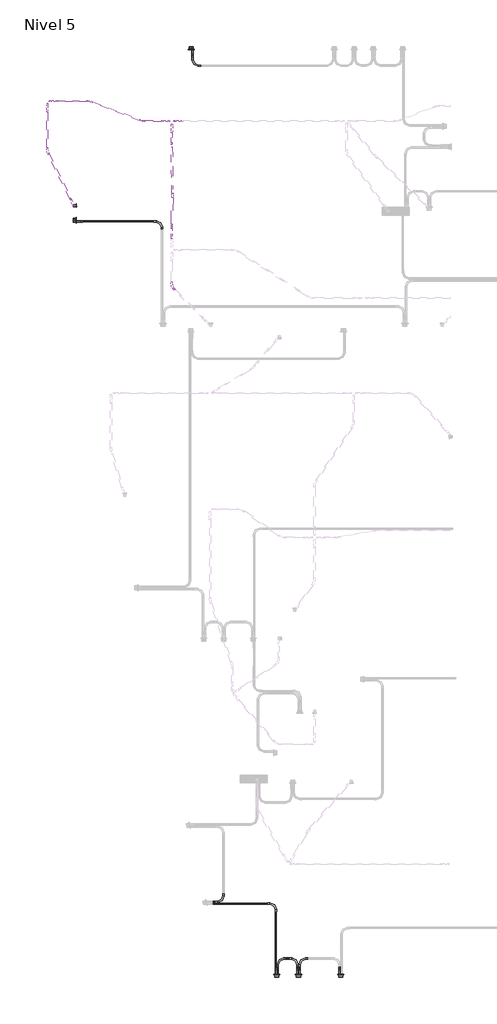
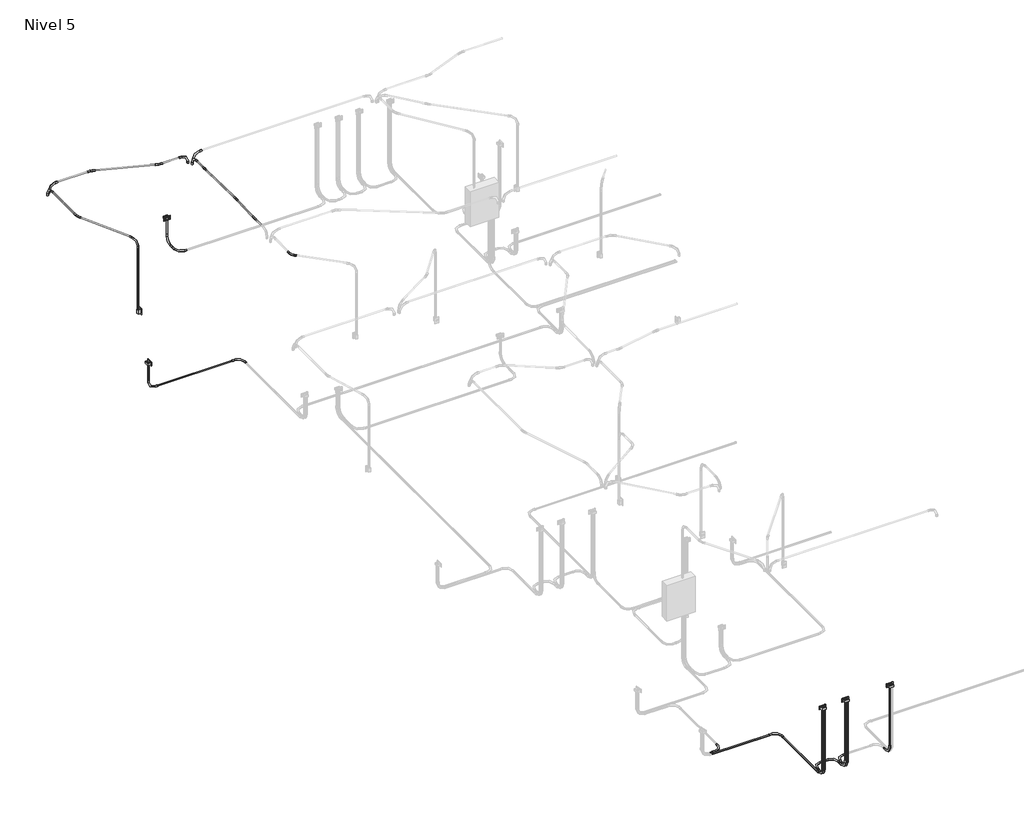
# One storey, part 2 of 9: 27 cable carrier fittings, 27 cable carrier segments, 5 proxies, 1 switching device.
"""IFC4 building model written with IfcOpenShell, lengths in millimetres."""

from ifc_helpers import new_model, si_unit, point, frame, frame_2d, origin, place, context, project, spatial, circle_curve, trimmed, segment, composite_curve, outline, extrude, transform, mapped, element, save
from components import gfci_180f1b41, m_codo_de_tubo_extremo_liso_pvc_9da73e12, m_codo_de_tubo_extremo_liso_pvc_102f0f41, m_codo_de_tubo_extremo_liso_pvc_31fdfd7b, m_codo_de_tubo_extremo_liso_pvc_199f3936, m_codo_de_tubo_extremo_liso_pvc_4eea1a97, m_codo_de_tubo_extremo_liso_pvc_b4c5bf2b, m_codo_de_tubo_extremo_liso_pvc_bfb08ca4, m_codo_de_tubo_extremo_liso_pvc_4ea2b15a, switching_device_22fed34b

model = new_model("IFC4")

# Units and contexts
model_context = context("Model", 3, world=origin())
ifc_project = project(units=[si_unit("LENGTHUNIT", "METRE", prefix="MILLI")], contexts=[model_context])

# Site, building, storey
site = spatial("IfcSite", under=ifc_project)
building = spatial("IfcBuilding", under=site)
storey = spatial("IfcBuildingStorey", under=building, Name="Nivel 5", Elevation=10750.0)

# Proxies
placement = place(None, origin())
gfci_shape = gfci_180f1b41(model_context)
element("IfcBuildingElementProxy", 1, Name="Tomacorriente doble 220V : GFCI", ObjectType="Tomacorriente doble 220V : GFCI", at=placement, inside=storey, context=model_context, shape_type="MappedRepresentation", body=[
    mapped(gfci_shape, transform((-348.6846132, 17515.0, 11150.0), x_axis=(0.0, 0.0, 1.0), y_axis=(-1.0, 0.0, 0.0), z_axis=(0.0, -1.0, 0.0))),
])
element("IfcBuildingElementProxy", 2, Name="Tomacorriente doble 220V : GFCI", ObjectType="Tomacorriente doble 220V : GFCI", at=placement, inside=storey, context=model_context, shape_type="MappedRepresentation", body=[
    mapped(gfci_shape, transform((-2515.0, 14302.9568005, 11150.0), x_axis=(0.0, 0.0, 1.0), y_axis=(0.0, -1.0, 0.0), z_axis=(1.0, 0.0, 0.0))),
])
element("IfcBuildingElementProxy", 3, Name="Tomacorriente doble 220V : GFCI", ObjectType="Tomacorriente doble 220V : GFCI", at=placement, inside=storey, context=model_context, shape_type="MappedRepresentation", body=[
    mapped(gfci_shape, transform((1255.5288542, 135.0, 11950.0), x_axis=(0.0, 0.0, 1.0), y_axis=(1.0, 0.0, 0.0), z_axis=(0.0, 1.0, 0.0))),
])
element("IfcBuildingElementProxy", 4, Name="Tomacorriente doble 220V : GFCI", ObjectType="Tomacorriente doble 220V : GFCI", at=placement, inside=storey, context=model_context, shape_type="MappedRepresentation", body=[
    mapped(gfci_shape, transform((1663.0318519, 135.0, 11950.0), x_axis=(0.0, 0.0, 1.0), y_axis=(1.0, 0.0, 0.0), z_axis=(0.0, 1.0, 0.0))),
])
element("IfcBuildingElementProxy", 5, Name="Tomacorriente doble 220V : GFCI", ObjectType="Tomacorriente doble 220V : GFCI", at=placement, inside=storey, context=model_context, shape_type="MappedRepresentation", body=[
    mapped(gfci_shape, transform((2452.7128025, 135.0, 11950.0), x_axis=(0.0, 0.0, 1.0), y_axis=(1.0, 0.0, 0.0), z_axis=(0.0, 1.0, 0.0))),
])

# Cable carrier fittings
m_codo_de_tubo_extremo_liso_pvc_shape = m_codo_de_tubo_extremo_liso_pvc_9da73e12(model_context)
element("IfcCableCarrierFitting", 6, ObjectType="M_Codo de tubo - Extremo liso - PVC : CODO POTENCIA", at=placement, inside=storey, context=model_context, shape_type="MappedRepresentation", body=[
    mapped(m_codo_de_tubo_extremo_liso_pvc_shape, transform((-330.6527934, 17544.6371118, 10680.0), x_axis=(0.0, 0.0, -1.0), y_axis=(0.0, -1.0, 0.0), z_axis=(-1.0, 0.0, 0.0))),
])
element("IfcCableCarrierFitting", 7, ObjectType="M_Codo de tubo - Extremo liso - PVC : CODO POTENCIA", at=placement, inside=storey, context=model_context, shape_type="MappedRepresentation", body=[
    mapped(m_codo_de_tubo_extremo_liso_pvc_shape, transform((-330.6527934, 17208.8420057, 10680.0), x_axis=(0.0, -1.0, 0.0), y_axis=(1.0, 0.0, 0.0), z_axis=(0.0, 0.0, 1.0))),
])
element("IfcCableCarrierFitting", 8, ObjectType="M_Codo de tubo - Extremo liso - PVC : CODO POTENCIA", at=placement, inside=storey, context=model_context, shape_type="MappedRepresentation", body=[
    mapped(m_codo_de_tubo_extremo_liso_pvc_shape, transform((-900.2944255, 14284.9249807, 10680.0), x_axis=(0.0, 1.0, 0.0), y_axis=(-1.0, 0.0, 0.0), z_axis=(0.0, 0.0, 1.0))),
])
element("IfcCableCarrierFitting", 9, ObjectType="M_Codo de tubo - Extremo liso - PVC : CODO POTENCIA", at=placement, inside=storey, context=model_context, shape_type="MappedRepresentation", body=[
    mapped(m_codo_de_tubo_extremo_liso_pvc_shape, transform((-2544.6371118, 14284.9249807, 10680.0), x_axis=(0.0, 0.0, -1.0), y_axis=(1.0, 0.0, 0.0), z_axis=(0.0, -1.0, 0.0))),
])
element("IfcCableCarrierFitting", 10, ObjectType="M_Codo de tubo - Extremo liso - PVC : CODO POTENCIA", at=placement, inside=storey, context=model_context, shape_type="MappedRepresentation", body=[
    mapped(m_codo_de_tubo_extremo_liso_pvc_shape, transform((1237.4970343, 105.3628882, 10680.0), x_axis=(0.0, 0.0, -1.0), y_axis=(0.0, 1.0, 0.0), z_axis=(1.0, 0.0, 0.0))),
])
element("IfcCableCarrierFitting", 11, ObjectType="M_Codo de tubo - Extremo liso - PVC : CODO POTENCIA", at=placement, inside=storey, context=model_context, shape_type="MappedRepresentation", body=[
    mapped(m_codo_de_tubo_extremo_liso_pvc_shape, transform((1273.560674, 105.3628882, 10680.0), x_axis=(0.0, 0.0, -1.0), y_axis=(0.0, 1.0, 0.0), z_axis=(1.0, 0.0, 0.0))),
])
element("IfcCableCarrierFitting", 12, ObjectType="M_Codo de tubo - Extremo liso - PVC : CODO POTENCIA", at=placement, inside=storey, context=model_context, shape_type="MappedRepresentation", body=[
    mapped(m_codo_de_tubo_extremo_liso_pvc_shape, transform((1645.0000321, 105.3628882, 10680.0), x_axis=(0.0, 0.0, -1.0), y_axis=(0.0, 1.0, 0.0), z_axis=(1.0, 0.0, 0.0))),
])
element("IfcCableCarrierFitting", 13, ObjectType="M_Codo de tubo - Extremo liso - PVC : CODO POTENCIA", at=placement, inside=storey, context=model_context, shape_type="MappedRepresentation", body=[
    mapped(m_codo_de_tubo_extremo_liso_pvc_shape, transform((1681.0636718, 105.3628882, 10680.0), x_axis=(0.0, 0.0, -1.0), y_axis=(0.0, 1.0, 0.0), z_axis=(1.0, 0.0, 0.0))),
])
element("IfcCableCarrierFitting", 14, ObjectType="M_Codo de tubo - Extremo liso - PVC : CODO POTENCIA", at=placement, inside=storey, context=model_context, shape_type="MappedRepresentation", body=[
    mapped(m_codo_de_tubo_extremo_liso_pvc_shape, transform((2434.6809826, 105.3628882, 10680.0), x_axis=(0.0, 0.0, -1.0), y_axis=(0.0, 1.0, 0.0), z_axis=(1.0, 0.0, 0.0))),
])
element("IfcCableCarrierFitting", 15, ObjectType="M_Codo de tubo - Extremo liso - PVC : CODO POTENCIA", at=placement, inside=storey, context=model_context, shape_type="MappedRepresentation", body=[
    mapped(m_codo_de_tubo_extremo_liso_pvc_shape, transform((253.0068358, 1502.4579832, 10680.0), x_axis=(1.0, 0.0, 0.0), y_axis=(0.0, 1.0, 0.0), z_axis=(0.0, 0.0, 1.0))),
])
element("IfcCableCarrierFitting", 16, ObjectType="M_Codo de tubo - Extremo liso - PVC : CODO POTENCIA", at=placement, inside=storey, context=model_context, shape_type="MappedRepresentation", body=[
    mapped(m_codo_de_tubo_extremo_liso_pvc_shape, transform((1237.4970343, 1467.2131755, 10680.0), x_axis=(0.0, 1.0, 0.0), y_axis=(-1.0, 0.0, 0.0), z_axis=(0.0, 0.0, 1.0))),
])
element("IfcCableCarrierFitting", 17, ObjectType="M_Codo de tubo - Extremo liso - PVC : CODO POTENCIA", at=placement, inside=storey, context=model_context, shape_type="MappedRepresentation", body=[
    mapped(m_codo_de_tubo_extremo_liso_pvc_shape, transform((1645.0000321, 438.3082217, 10680.0), x_axis=(0.0, 1.0, 0.0), y_axis=(-1.0, 0.0, 0.0), z_axis=(0.0, 0.0, 1.0))),
])
element("IfcCableCarrierFitting", 18, ObjectType="M_Codo de tubo - Extremo liso - PVC : CODO POTENCIA", at=placement, inside=storey, context=model_context, shape_type="MappedRepresentation", body=[
    mapped(m_codo_de_tubo_extremo_liso_pvc_shape, transform((1273.560674, 438.3082217, 10680.0), x_axis=(-1.0, 0.0, 0.0), y_axis=(0.0, -1.0, 0.0), z_axis=(0.0, 0.0, 1.0))),
])
element("IfcCableCarrierFitting", 19, ObjectType="M_Codo de tubo - Extremo liso - PVC : CODO POTENCIA", at=placement, inside=storey, context=model_context, shape_type="MappedRepresentation", body=[
    mapped(m_codo_de_tubo_extremo_liso_pvc_shape, transform((1681.0636718, 438.3082217, 10680.0), x_axis=(-1.0, 0.0, 0.0), y_axis=(0.0, -1.0, 0.0), z_axis=(0.0, 0.0, 1.0))),
])
element("IfcCableCarrierFitting", 20, ObjectType="M_Codo de tubo - Extremo liso - PVC : CODO ILUMINACION", at=placement, inside=storey, context=model_context, shape_type="MappedRepresentation", body=[
    mapped(m_codo_de_tubo_extremo_liso_pvc_shape, transform((-665.3156999, 16168.6370953, 13300.0), x_axis=(-1.0, 0.0, 0.0), y_axis=(0.0, 0.0, -1.0), z_axis=(0.0, -1.0, 0.0))),
])
element("IfcCableCarrierFitting", 21, ObjectType="M_Codo de tubo - Extremo liso - PVC : CODO ILUMINACION", at=placement, inside=storey, context=model_context, shape_type="MappedRepresentation", body=[
    mapped(m_codo_de_tubo_extremo_liso_pvc_shape, transform((-3010.5406073, 16541.9011196, 13300.0), x_axis=(-1.0, 0.0, 0.0), y_axis=(0.0, 0.0, -1.0), z_axis=(0.0, -1.0, 0.0))),
])
element("IfcCableCarrierFitting", 22, ObjectType="M_Codo de tubo - Extremo liso - PVC : CODO ILUMINACION", at=placement, inside=storey, context=model_context, shape_type="MappedRepresentation", body=[
    mapped(m_codo_de_tubo_extremo_liso_pvc_shape, transform((-2558.1388757, 14580.6379866, 13300.0), x_axis=(0.0, 0.0, 1.0), y_axis=(-0.4383711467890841, 0.8987940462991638, 0.0), z_axis=(-0.8987940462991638, -0.4383711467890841, 0.0))),
])
element("IfcCableCarrierFitting", 23, ObjectType="M_Codo de tubo - Extremo liso - PVC : CODO ILUMINACION", at=placement, inside=storey, context=model_context, shape_type="MappedRepresentation", body=[
    mapped(m_codo_de_tubo_extremo_liso_pvc_shape, transform((-715.4231993, 16103.9110611, 13300.0), x_axis=(0.00939019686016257, 0.9999559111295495, 0.0), y_axis=(0.0, 0.0, -1.0000000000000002), z_axis=(-0.9999559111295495, 0.00939019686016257, 0.0))),
])
m_codo_de_tubo_extremo_liso_pvc_2_shape = m_codo_de_tubo_extremo_liso_pvc_102f0f41(model_context)
element("IfcCableCarrierFitting", 24, ObjectType="M_Codo de tubo - Extremo liso - PVC : CODO ILUMINACION", at=placement, inside=storey, context=model_context, shape_type="MappedRepresentation", body=[
    mapped(m_codo_de_tubo_extremo_liso_pvc_2_shape, transform((-758.4681188, 16168.6370953, 13300.0), x_axis=(1.0, 0.0, 0.0), y_axis=(0.0, 0.0, 1.0), z_axis=(0.0, -1.0, 0.0))),
])
element("IfcCableCarrierFitting", 25, ObjectType="M_Codo de tubo - Extremo liso - PVC : CODO ILUMINACION", at=placement, inside=storey, context=model_context, shape_type="MappedRepresentation", body=[
    mapped(m_codo_de_tubo_extremo_liso_pvc_2_shape, transform((-3057.1168167, 16495.3249101, 13300.0), x_axis=(0.0, 1.0, 0.0), y_axis=(0.0, 0.0, 1.0), z_axis=(1.0, 0.0, 0.0))),
])
m_codo_de_tubo_extremo_liso_pvc_3_shape = m_codo_de_tubo_extremo_liso_pvc_31fdfd7b(model_context)
element("IfcCableCarrierFitting", 26, ObjectType="M_Codo de tubo - Extremo liso - PVC : CODO ILUMINACION", at=placement, inside=storey, context=model_context, shape_type="MappedRepresentation", body=[
    mapped(m_codo_de_tubo_extremo_liso_pvc_3_shape, transform((-2258.1406073, 16541.9011196, 13300.0), x_axis=(-0.9353798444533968, 0.3536446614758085, 0.0), y_axis=(-0.3536446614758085, -0.9353798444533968, 0.0), z_axis=(0.0, 0.0, 1.0))),
])
element("IfcCableCarrierFitting", 27, ObjectType="M_Codo de tubo - Extremo liso - PVC : CODO ILUMINACION", at=placement, inside=storey, context=model_context, shape_type="MappedRepresentation", body=[
    mapped(m_codo_de_tubo_extremo_liso_pvc_3_shape, transform((-1270.8681188, 16168.6370953, 13300.0), x_axis=(0.9353798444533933, -0.3536446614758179, 0.0), y_axis=(0.3536446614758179, 0.9353798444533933, 0.0), z_axis=(0.0, 0.0, 1.0))),
])
m_codo_de_tubo_extremo_liso_pvc_4_shape = m_codo_de_tubo_extremo_liso_pvc_199f3936(model_context)
element("IfcCableCarrierFitting", 28, ObjectType="M_Codo de tubo - Extremo liso - PVC : CODO ILUMINACION", at=placement, inside=storey, context=model_context, shape_type="MappedRepresentation", body=[
    mapped(m_codo_de_tubo_extremo_liso_pvc_4_shape, transform((-3057.1168167, 15603.694376, 13300.0), x_axis=(0.0, -1.0, 0.0), y_axis=(1.0, 0.0, 0.0), z_axis=(0.0, 0.0, 1.0))),
])
m_codo_de_tubo_extremo_liso_pvc_5_shape = m_codo_de_tubo_extremo_liso_pvc_4eea1a97(model_context)
element("IfcCableCarrierFitting", 29, ObjectType="M_Codo de tubo - Extremo liso - PVC : CODO ILUMINACION", at=placement, inside=storey, context=model_context, shape_type="MappedRepresentation", body=[
    mapped(m_codo_de_tubo_extremo_liso_pvc_5_shape, transform((-721.396181, 13060.2656357, 13300.0), x_axis=(-0.009390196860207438, -0.9999559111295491, 0.0), y_axis=(0.9999559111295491, -0.009390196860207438, 0.0), z_axis=(0.0, 0.0, 1.0))),
])
m_codo_de_tubo_extremo_liso_pvc_6_shape = m_codo_de_tubo_extremo_liso_pvc_b4c5bf2b(model_context)
element("IfcCableCarrierFitting", 30, ObjectType="M_Codo de tubo - Extremo liso - PVC : CODO ILUMINACION", at=placement, inside=storey, context=model_context, shape_type="MappedRepresentation", body=[
    mapped(m_codo_de_tubo_extremo_liso_pvc_6_shape, transform((-719.0008643, 15722.9278589, 13300.0), x_axis=(-0.009390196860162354, -0.9999559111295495, 0.0), y_axis=(0.9999559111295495, -0.009390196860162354, 0.0), z_axis=(0.0, 0.0, 1.0))),
])
m_codo_de_tubo_extremo_liso_pvc_7_shape = m_codo_de_tubo_extremo_liso_pvc_bfb08ca4(model_context)
element("IfcCableCarrierFitting", 31, ObjectType="M_Codo de tubo - Extremo liso - PVC : CODO ILUMINACION", at=placement, inside=storey, context=model_context, shape_type="MappedRepresentation", body=[
    mapped(m_codo_de_tubo_extremo_liso_pvc_7_shape, transform((-719.0008643, 14190.628692, 13300.0), x_axis=(-0.02343577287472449, -0.9997253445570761, 0.0), y_axis=(0.9997253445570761, -0.02343577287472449, 0.0), z_axis=(0.0, 0.0, 1.0))),
])
m_codo_de_tubo_extremo_liso_pvc_8_shape = m_codo_de_tubo_extremo_liso_pvc_4ea2b15a(model_context)
element("IfcCableCarrierFitting", 32, ObjectType="M_Codo de tubo - Extremo liso - PVC : CODO ILUMINACION", at=placement, inside=storey, context=model_context, shape_type="MappedRepresentation", body=[
    mapped(m_codo_de_tubo_extremo_liso_pvc_8_shape, transform((-705.288344, 14775.5786387, 13300.0), x_axis=(0.023435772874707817, 0.9997253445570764, 0.0), y_axis=(-0.9997253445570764, 0.023435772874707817, 0.0), z_axis=(0.0, 0.0, 1.0))),
])

# Cable carrier segments
element("IfcCableCarrierSegment", 33, ObjectType="PVC-SEL, POTENCIA", at=placement, inside=storey, context=model_context, shape_type="SweptSolid", body=[
    extrude(outline(composite_curve([segment(trimmed(circle_curve(frame_2d((10680.0, -330.6527934)), 11.71), [point((10680.0, -342.3627934))], [point((10668.29, -330.6527934))], False, "CARTESIAN"), True, "CONTINUOUS"), segment(trimmed(circle_curve(frame_2d((10680.0, -330.6527934)), 11.71), [point((10668.29, -330.6527934))], [point((10680.0, -318.9427934))], False, "CARTESIAN"), True, "CONTINUOUS"), segment(trimmed(circle_curve(frame_2d((10680.0, -330.6527934)), 11.71), [point((10680.0, -318.9427934))], [point((10691.71, -330.6527934))], False, "CARTESIAN"), True, "CONTINUOUS"), segment(trimmed(circle_curve(frame_2d((10680.0, -330.6527934)), 11.71), [point((10691.71, -330.6527934))], [point((10680.0, -342.3627934))], False, "CARTESIAN"), True, "CONTINUOUS")], self_intersect=False)), frame((0.0, 17361.2420057, 0.0), z_axis=(0.0, 1.0, 0.0), x_axis=(0.0, 0.0, 1.0)), (0.0, 0.0, 1.0), 30.9951061),
])
element("IfcCableCarrierSegment", 34, ObjectType="PVC-SEL, POTENCIA", at=placement, inside=storey, context=model_context, shape_type="SweptSolid", body=[
    extrude(outline(composite_curve([segment(trimmed(circle_curve(frame_2d((-330.6527934, 17544.6371118)), 11.71), [point((-318.9427934, 17544.6371118))], [point((-330.6527934, 17532.9271118))], False, "CARTESIAN"), True, "CONTINUOUS"), segment(trimmed(circle_curve(frame_2d((-330.6527934, 17544.6371118)), 11.71), [point((-330.6527934, 17532.9271118))], [point((-342.3627934, 17544.6371118))], False, "CARTESIAN"), True, "CONTINUOUS"), segment(trimmed(circle_curve(frame_2d((-330.6527934, 17544.6371118)), 11.71), [point((-342.3627934, 17544.6371118))], [point((-330.6527934, 17556.3471118))], False, "CARTESIAN"), True, "CONTINUOUS"), segment(trimmed(circle_curve(frame_2d((-330.6527934, 17544.6371118)), 11.71), [point((-330.6527934, 17556.3471118))], [point((-318.9427934, 17544.6371118))], False, "CARTESIAN"), True, "CONTINUOUS")], self_intersect=False)), frame((0.0, 0.0, 10832.4), z_axis=(0.0, 0.0, 1.0), x_axis=(1.0, 0.0, 0.0)), (0.0, 0.0, 1.0), 297.3020537),
])
element("IfcCableCarrierSegment", 35, ObjectType="PVC-SEL, POTENCIA", at=placement, inside=storey, context=model_context, shape_type="SweptSolid", body=[
    extrude(outline(composite_curve([segment(trimmed(circle_curve(frame_2d((14284.9249807, 10680.0)), 11.71), [point((14296.6349807, 10680.0))], [point((14284.9249807, 10668.29))], False, "CARTESIAN"), True, "CONTINUOUS"), segment(trimmed(circle_curve(frame_2d((14284.9249807, 10680.0)), 11.71), [point((14284.9249807, 10668.29))], [point((14273.2149807, 10680.0))], False, "CARTESIAN"), True, "CONTINUOUS"), segment(trimmed(circle_curve(frame_2d((14284.9249807, 10680.0)), 11.71), [point((14273.2149807, 10680.0))], [point((14284.9249807, 10691.71))], False, "CARTESIAN"), True, "CONTINUOUS"), segment(trimmed(circle_curve(frame_2d((14284.9249807, 10680.0)), 11.71), [point((14284.9249807, 10691.71))], [point((14296.6349807, 10680.0))], False, "CARTESIAN"), True, "CONTINUOUS")], self_intersect=False)), frame((-2392.2371118, 0.0, 0.0), z_axis=(1.0, 0.0, 0.0), x_axis=(0.0, 1.0, 0.0)), (0.0, 0.0, 1.0), 1339.5426862),
])
element("IfcCableCarrierSegment", 36, ObjectType="PVC-SEL, POTENCIA", at=placement, inside=storey, context=model_context, shape_type="SweptSolid", body=[
    extrude(outline(composite_curve([segment(trimmed(circle_curve(frame_2d((-2544.6371118, 14284.9249807)), 11.71), [point((-2532.9271118, 14284.9249807))], [point((-2544.6371118, 14273.2149807))], False, "CARTESIAN"), True, "CONTINUOUS"), segment(trimmed(circle_curve(frame_2d((-2544.6371118, 14284.9249807)), 11.71), [point((-2544.6371118, 14273.2149807))], [point((-2556.3471118, 14284.9249807))], False, "CARTESIAN"), True, "CONTINUOUS"), segment(trimmed(circle_curve(frame_2d((-2544.6371118, 14284.9249807)), 11.71), [point((-2556.3471118, 14284.9249807))], [point((-2544.6371118, 14296.6349807))], False, "CARTESIAN"), True, "CONTINUOUS"), segment(trimmed(circle_curve(frame_2d((-2544.6371118, 14284.9249807)), 11.71), [point((-2544.6371118, 14296.6349807))], [point((-2532.9271118, 14284.9249807))], False, "CARTESIAN"), True, "CONTINUOUS")], self_intersect=False)), frame((0.0, 0.0, 10832.4), z_axis=(0.0, 0.0, 1.0), x_axis=(1.0, 0.0, 0.0)), (0.0, 0.0, 1.0), 297.3020537),
])
element("IfcCableCarrierSegment", 37, ObjectType="PVC-SEL, POTENCIA", at=placement, inside=storey, context=model_context, shape_type="SweptSolid", body=[
    extrude(outline(composite_curve([segment(trimmed(circle_curve(frame_2d((10680.0, 1237.4970343)), 11.71), [point((10680.0, 1249.2070343))], [point((10691.71, 1237.4970343))], False, "CARTESIAN"), True, "CONTINUOUS"), segment(trimmed(circle_curve(frame_2d((10680.0, 1237.4970343)), 11.71), [point((10691.71, 1237.4970343))], [point((10680.0, 1225.7870343))], False, "CARTESIAN"), True, "CONTINUOUS"), segment(trimmed(circle_curve(frame_2d((10680.0, 1237.4970343)), 11.71), [point((10680.0, 1225.7870343))], [point((10668.29, 1237.4970343))], False, "CARTESIAN"), True, "CONTINUOUS"), segment(trimmed(circle_curve(frame_2d((10680.0, 1237.4970343)), 11.71), [point((10668.29, 1237.4970343))], [point((10680.0, 1249.2070343))], False, "CARTESIAN"), True, "CONTINUOUS")], self_intersect=False)), frame((0.0, 257.7628882, 0.0), z_axis=(0.0, 1.0, 0.0), x_axis=(0.0, 0.0, 1.0)), (0.0, 0.0, 1.0), 1057.0502873),
])
element("IfcCableCarrierSegment", 38, ObjectType="PVC-SEL, POTENCIA", at=placement, inside=storey, context=model_context, shape_type="SweptSolid", body=[
    extrude(outline(composite_curve([segment(trimmed(circle_curve(frame_2d((1237.4970343, 105.3628882)), 11.71), [point((1249.2070343, 105.3628882))], [point((1237.4970343, 93.6528882))], False, "CARTESIAN"), True, "CONTINUOUS"), segment(trimmed(circle_curve(frame_2d((1237.4970343, 105.3628882)), 11.71), [point((1237.4970343, 93.6528882))], [point((1225.7870343, 105.3628882))], False, "CARTESIAN"), True, "CONTINUOUS"), segment(trimmed(circle_curve(frame_2d((1237.4970343, 105.3628882)), 11.71), [point((1225.7870343, 105.3628882))], [point((1237.4970343, 117.0728882))], False, "CARTESIAN"), True, "CONTINUOUS"), segment(trimmed(circle_curve(frame_2d((1237.4970343, 105.3628882)), 11.71), [point((1237.4970343, 117.0728882))], [point((1249.2070343, 105.3628882))], False, "CARTESIAN"), True, "CONTINUOUS")], self_intersect=False)), frame((0.0, 0.0, 10832.4), z_axis=(0.0, 0.0, 1.0), x_axis=(1.0, 0.0, 0.0)), (0.0, 0.0, 1.0), 1097.3020537),
])
element("IfcCableCarrierSegment", 39, ObjectType="PVC-SEL, POTENCIA", at=placement, inside=storey, context=model_context, shape_type="SweptSolid", body=[
    extrude(outline(composite_curve([segment(trimmed(circle_curve(frame_2d((10680.0, 1273.560674)), 11.71), [point((10680.0, 1285.270674))], [point((10691.71, 1273.560674))], False, "CARTESIAN"), True, "CONTINUOUS"), segment(trimmed(circle_curve(frame_2d((10680.0, 1273.560674)), 11.71), [point((10691.71, 1273.560674))], [point((10680.0, 1261.850674))], False, "CARTESIAN"), True, "CONTINUOUS"), segment(trimmed(circle_curve(frame_2d((10680.0, 1273.560674)), 11.71), [point((10680.0, 1261.850674))], [point((10668.29, 1273.560674))], False, "CARTESIAN"), True, "CONTINUOUS"), segment(trimmed(circle_curve(frame_2d((10680.0, 1273.560674)), 11.71), [point((10668.29, 1273.560674))], [point((10680.0, 1285.270674))], False, "CARTESIAN"), True, "CONTINUOUS")], self_intersect=False)), frame((0.0, 257.7628882, 0.0), z_axis=(0.0, 1.0, 0.0), x_axis=(0.0, 0.0, 1.0)), (0.0, 0.0, 1.0), 28.1453335),
])
element("IfcCableCarrierSegment", 40, ObjectType="PVC-SEL, POTENCIA", at=placement, inside=storey, context=model_context, shape_type="SweptSolid", body=[
    extrude(outline(composite_curve([segment(trimmed(circle_curve(frame_2d((1273.560674, 105.3628882)), 11.71), [point((1285.270674, 105.3628882))], [point((1273.560674, 93.6528882))], False, "CARTESIAN"), True, "CONTINUOUS"), segment(trimmed(circle_curve(frame_2d((1273.560674, 105.3628882)), 11.71), [point((1273.560674, 93.6528882))], [point((1261.850674, 105.3628882))], False, "CARTESIAN"), True, "CONTINUOUS"), segment(trimmed(circle_curve(frame_2d((1273.560674, 105.3628882)), 11.71), [point((1261.850674, 105.3628882))], [point((1273.560674, 117.0728882))], False, "CARTESIAN"), True, "CONTINUOUS"), segment(trimmed(circle_curve(frame_2d((1273.560674, 105.3628882)), 11.71), [point((1273.560674, 117.0728882))], [point((1285.270674, 105.3628882))], False, "CARTESIAN"), True, "CONTINUOUS")], self_intersect=False)), frame((0.0, 0.0, 10832.4), z_axis=(0.0, 0.0, 1.0), x_axis=(1.0, 0.0, 0.0)), (0.0, 0.0, 1.0), 1097.3020537),
])
element("IfcCableCarrierSegment", 41, ObjectType="PVC-SEL, POTENCIA", at=placement, inside=storey, context=model_context, shape_type="SweptSolid", body=[
    extrude(outline(composite_curve([segment(trimmed(circle_curve(frame_2d((10680.0, 1645.0000321)), 11.71), [point((10680.0, 1656.7100321))], [point((10691.71, 1645.0000321))], False, "CARTESIAN"), True, "CONTINUOUS"), segment(trimmed(circle_curve(frame_2d((10680.0, 1645.0000321)), 11.71), [point((10691.71, 1645.0000321))], [point((10680.0, 1633.2900321))], False, "CARTESIAN"), True, "CONTINUOUS"), segment(trimmed(circle_curve(frame_2d((10680.0, 1645.0000321)), 11.71), [point((10680.0, 1633.2900321))], [point((10668.29, 1645.0000321))], False, "CARTESIAN"), True, "CONTINUOUS"), segment(trimmed(circle_curve(frame_2d((10680.0, 1645.0000321)), 11.71), [point((10668.29, 1645.0000321))], [point((10680.0, 1656.7100321))], False, "CARTESIAN"), True, "CONTINUOUS")], self_intersect=False)), frame((0.0, 257.7628882, 0.0), z_axis=(0.0, 1.0, 0.0), x_axis=(0.0, 0.0, 1.0)), (0.0, 0.0, 1.0), 28.1453335),
])
element("IfcCableCarrierSegment", 42, ObjectType="PVC-SEL, POTENCIA", at=placement, inside=storey, context=model_context, shape_type="SweptSolid", body=[
    extrude(outline(composite_curve([segment(trimmed(circle_curve(frame_2d((1645.0000321, 105.3628882)), 11.71), [point((1656.7100321, 105.3628882))], [point((1645.0000321, 93.6528882))], False, "CARTESIAN"), True, "CONTINUOUS"), segment(trimmed(circle_curve(frame_2d((1645.0000321, 105.3628882)), 11.71), [point((1645.0000321, 93.6528882))], [point((1633.2900321, 105.3628882))], False, "CARTESIAN"), True, "CONTINUOUS"), segment(trimmed(circle_curve(frame_2d((1645.0000321, 105.3628882)), 11.71), [point((1633.2900321, 105.3628882))], [point((1645.0000321, 117.0728882))], False, "CARTESIAN"), True, "CONTINUOUS"), segment(trimmed(circle_curve(frame_2d((1645.0000321, 105.3628882)), 11.71), [point((1645.0000321, 117.0728882))], [point((1656.7100321, 105.3628882))], False, "CARTESIAN"), True, "CONTINUOUS")], self_intersect=False)), frame((0.0, 0.0, 10832.4), z_axis=(0.0, 0.0, 1.0), x_axis=(1.0, 0.0, 0.0)), (0.0, 0.0, 1.0), 1097.3020537),
])
element("IfcCableCarrierSegment", 43, ObjectType="PVC-SEL, POTENCIA", at=placement, inside=storey, context=model_context, shape_type="SweptSolid", body=[
    extrude(outline(composite_curve([segment(trimmed(circle_curve(frame_2d((10680.0, 1681.0636718)), 11.71), [point((10680.0, 1692.7736718))], [point((10691.71, 1681.0636718))], False, "CARTESIAN"), True, "CONTINUOUS"), segment(trimmed(circle_curve(frame_2d((10680.0, 1681.0636718)), 11.71), [point((10691.71, 1681.0636718))], [point((10680.0, 1669.3536718))], False, "CARTESIAN"), True, "CONTINUOUS"), segment(trimmed(circle_curve(frame_2d((10680.0, 1681.0636718)), 11.71), [point((10680.0, 1669.3536718))], [point((10668.29, 1681.0636718))], False, "CARTESIAN"), True, "CONTINUOUS"), segment(trimmed(circle_curve(frame_2d((10680.0, 1681.0636718)), 11.71), [point((10668.29, 1681.0636718))], [point((10680.0, 1692.7736718))], False, "CARTESIAN"), True, "CONTINUOUS")], self_intersect=False)), frame((0.0, 257.7628882, 0.0), z_axis=(0.0, 1.0, 0.0), x_axis=(0.0, 0.0, 1.0)), (0.0, 0.0, 1.0), 28.1453335),
])
element("IfcCableCarrierSegment", 44, ObjectType="PVC-SEL, POTENCIA", at=placement, inside=storey, context=model_context, shape_type="SweptSolid", body=[
    extrude(outline(composite_curve([segment(trimmed(circle_curve(frame_2d((1681.0636718, 105.3628882)), 11.71), [point((1692.7736718, 105.3628882))], [point((1681.0636718, 93.6528882))], False, "CARTESIAN"), True, "CONTINUOUS"), segment(trimmed(circle_curve(frame_2d((1681.0636718, 105.3628882)), 11.71), [point((1681.0636718, 93.6528882))], [point((1669.3536718, 105.3628882))], False, "CARTESIAN"), True, "CONTINUOUS"), segment(trimmed(circle_curve(frame_2d((1681.0636718, 105.3628882)), 11.71), [point((1669.3536718, 105.3628882))], [point((1681.0636718, 117.0728882))], False, "CARTESIAN"), True, "CONTINUOUS"), segment(trimmed(circle_curve(frame_2d((1681.0636718, 105.3628882)), 11.71), [point((1681.0636718, 117.0728882))], [point((1692.7736718, 105.3628882))], False, "CARTESIAN"), True, "CONTINUOUS")], self_intersect=False)), frame((0.0, 0.0, 10832.4), z_axis=(0.0, 0.0, 1.0), x_axis=(1.0, 0.0, 0.0)), (0.0, 0.0, 1.0), 1097.3020537),
])
element("IfcCableCarrierSegment", 45, ObjectType="PVC-SEL, POTENCIA", at=placement, inside=storey, context=model_context, shape_type="SweptSolid", body=[
    extrude(outline(composite_curve([segment(trimmed(circle_curve(frame_2d((10680.0, 2434.6809826)), 11.71), [point((10680.0, 2446.3909826))], [point((10691.71, 2434.6809826))], False, "CARTESIAN"), True, "CONTINUOUS"), segment(trimmed(circle_curve(frame_2d((10680.0, 2434.6809826)), 11.71), [point((10691.71, 2434.6809826))], [point((10680.0, 2422.9709826))], False, "CARTESIAN"), True, "CONTINUOUS"), segment(trimmed(circle_curve(frame_2d((10680.0, 2434.6809826)), 11.71), [point((10680.0, 2422.9709826))], [point((10668.29, 2434.6809826))], False, "CARTESIAN"), True, "CONTINUOUS"), segment(trimmed(circle_curve(frame_2d((10680.0, 2434.6809826)), 11.71), [point((10668.29, 2434.6809826))], [point((10680.0, 2446.3909826))], False, "CARTESIAN"), True, "CONTINUOUS")], self_intersect=False)), frame((0.0, 257.7628882, 0.0), z_axis=(0.0, 1.0, 0.0), x_axis=(0.0, 0.0, 1.0)), (0.0, 0.0, 1.0), 28.1453335),
])
element("IfcCableCarrierSegment", 46, ObjectType="PVC-SEL, POTENCIA", at=placement, inside=storey, context=model_context, shape_type="SweptSolid", body=[
    extrude(outline(composite_curve([segment(trimmed(circle_curve(frame_2d((2434.6809826, 105.3628882)), 11.71), [point((2446.3909826, 105.3628882))], [point((2434.6809826, 93.6528882))], False, "CARTESIAN"), True, "CONTINUOUS"), segment(trimmed(circle_curve(frame_2d((2434.6809826, 105.3628882)), 11.71), [point((2434.6809826, 93.6528882))], [point((2422.9709826, 105.3628882))], False, "CARTESIAN"), True, "CONTINUOUS"), segment(trimmed(circle_curve(frame_2d((2434.6809826, 105.3628882)), 11.71), [point((2422.9709826, 105.3628882))], [point((2434.6809826, 117.0728882))], False, "CARTESIAN"), True, "CONTINUOUS"), segment(trimmed(circle_curve(frame_2d((2434.6809826, 105.3628882)), 11.71), [point((2434.6809826, 117.0728882))], [point((2446.3909826, 105.3628882))], False, "CARTESIAN"), True, "CONTINUOUS")], self_intersect=False)), frame((0.0, 0.0, 10832.4), z_axis=(0.0, 0.0, 1.0), x_axis=(1.0, 0.0, 0.0)), (0.0, 0.0, 1.0), 1097.3020537),
])
element("IfcCableCarrierSegment", 47, ObjectType="PVC-SEL, POTENCIA", at=placement, inside=storey, context=model_context, shape_type="SweptSolid", body=[
    extrude(outline(composite_curve([segment(trimmed(circle_curve(frame_2d((1467.2131755, 10680.0)), 11.71), [point((1478.9231755, 10680.0))], [point((1467.2131755, 10668.29))], False, "CARTESIAN"), True, "CONTINUOUS"), segment(trimmed(circle_curve(frame_2d((1467.2131755, 10680.0)), 11.71), [point((1467.2131755, 10668.29))], [point((1455.5031755, 10680.0))], False, "CARTESIAN"), True, "CONTINUOUS"), segment(trimmed(circle_curve(frame_2d((1467.2131755, 10680.0)), 11.71), [point((1455.5031755, 10680.0))], [point((1467.2131755, 10691.71))], False, "CARTESIAN"), True, "CONTINUOUS"), segment(trimmed(circle_curve(frame_2d((1467.2131755, 10680.0)), 11.71), [point((1467.2131755, 10691.71))], [point((1478.9231755, 10680.0))], False, "CARTESIAN"), True, "CONTINUOUS")], self_intersect=False)), frame((55.0770794, 0.0, 0.0), z_axis=(1.0, 0.0, 0.0), x_axis=(0.0, 1.0, 0.0)), (0.0, 0.0, 1.0), 1030.0199549),
])
element("IfcCableCarrierSegment", 48, ObjectType="PVC-SEL, POTENCIA", at=placement, inside=storey, context=model_context, shape_type="SweptSolid", body=[
    extrude(outline(composite_curve([segment(trimmed(circle_curve(frame_2d((1502.4579832, 10680.0)), 11.71), [point((1514.1679832, 10680.0))], [point((1502.4579832, 10668.29))], False, "CARTESIAN"), True, "CONTINUOUS"), segment(trimmed(circle_curve(frame_2d((1502.4579832, 10680.0)), 11.71), [point((1502.4579832, 10668.29))], [point((1490.7479832, 10680.0))], False, "CARTESIAN"), True, "CONTINUOUS"), segment(trimmed(circle_curve(frame_2d((1502.4579832, 10680.0)), 11.71), [point((1490.7479832, 10680.0))], [point((1502.4579832, 10691.71))], False, "CARTESIAN"), True, "CONTINUOUS"), segment(trimmed(circle_curve(frame_2d((1502.4579832, 10680.0)), 11.71), [point((1502.4579832, 10691.71))], [point((1514.1679832, 10680.0))], False, "CARTESIAN"), True, "CONTINUOUS")], self_intersect=False)), frame((47.4357682, 0.0, 0.0), z_axis=(1.0, 0.0, 0.0), x_axis=(0.0, 1.0, 0.0)), (0.0, 0.0, 1.0), 53.1710676),
])
element("IfcCableCarrierSegment", 49, ObjectType="PVC-SEL, POTENCIA", at=placement, inside=storey, context=model_context, shape_type="SweptSolid", body=[
    extrude(outline(composite_curve([segment(trimmed(circle_curve(frame_2d((438.3082217, 10680.0)), 11.71), [point((450.0182217, 10680.0))], [point((438.3082217, 10668.29))], False, "CARTESIAN"), True, "CONTINUOUS"), segment(trimmed(circle_curve(frame_2d((438.3082217, 10680.0)), 11.71), [point((438.3082217, 10668.29))], [point((426.5982217, 10680.0))], False, "CARTESIAN"), True, "CONTINUOUS"), segment(trimmed(circle_curve(frame_2d((438.3082217, 10680.0)), 11.71), [point((426.5982217, 10680.0))], [point((438.3082217, 10691.71))], False, "CARTESIAN"), True, "CONTINUOUS"), segment(trimmed(circle_curve(frame_2d((438.3082217, 10680.0)), 11.71), [point((438.3082217, 10691.71))], [point((450.0182217, 10680.0))], False, "CARTESIAN"), True, "CONTINUOUS")], self_intersect=False)), frame((1425.960674, 0.0, 0.0), z_axis=(1.0, 0.0, 0.0), x_axis=(0.0, 1.0, 0.0)), (0.0, 0.0, 1.0), 66.6393582),
])
element("IfcCableCarrierSegment", 50, ObjectType="PVC-SEL ILUMINACION", at=placement, inside=storey, context=model_context, shape_type="SweptSolid", body=[
    extrude(outline(composite_curve([segment(trimmed(circle_curve(frame_2d((16541.9011196, 13300.0)), 11.71), [point((16530.1911196, 13300.0))], [point((16541.9011196, 13311.71))], False, "CARTESIAN"), True, "CONTINUOUS"), segment(trimmed(circle_curve(frame_2d((16541.9011196, 13300.0)), 11.71), [point((16541.9011196, 13311.71))], [point((16553.6111196, 13300.0))], False, "CARTESIAN"), True, "CONTINUOUS"), segment(trimmed(circle_curve(frame_2d((16541.9011196, 13300.0)), 11.71), [point((16553.6111196, 13300.0))], [point((16541.9011196, 13288.29))], False, "CARTESIAN"), True, "CONTINUOUS"), segment(trimmed(circle_curve(frame_2d((16541.9011196, 13300.0)), 11.71), [point((16541.9011196, 13288.29))], [point((16530.1911196, 13300.0))], False, "CARTESIAN"), True, "CONTINUOUS")], self_intersect=False)), frame((-2858.1406073, 0.0, 0.0), z_axis=(1.0, 0.0, 0.0), x_axis=(0.0, 1.0, 0.0)), (0.0, 0.0, 1.0), 541.014392),
])
element("IfcCableCarrierSegment", 51, ObjectType="PVC-SEL ILUMINACION", at=placement, inside=storey, context=model_context, shape_type="SweptSolid", body=[
    extrude(outline(composite_curve([segment(trimmed(circle_curve(frame_2d((16168.6370953, 13300.0)), 11.71), [point((16180.3470953, 13300.0))], [point((16168.6370953, 13288.29))], False, "CARTESIAN"), True, "CONTINUOUS"), segment(trimmed(circle_curve(frame_2d((16168.6370953, 13300.0)), 11.71), [point((16168.6370953, 13288.29))], [point((16156.9270953, 13300.0))], False, "CARTESIAN"), True, "CONTINUOUS"), segment(trimmed(circle_curve(frame_2d((16168.6370953, 13300.0)), 11.71), [point((16156.9270953, 13300.0))], [point((16168.6370953, 13311.71))], False, "CARTESIAN"), True, "CONTINUOUS"), segment(trimmed(circle_curve(frame_2d((16168.6370953, 13300.0)), 11.71), [point((16168.6370953, 13311.71))], [point((16180.3470953, 13300.0))], False, "CARTESIAN"), True, "CONTINUOUS")], self_intersect=False)), frame((-1211.8825107, 0.0, 0.0), z_axis=(1.0, 0.0, 0.0), x_axis=(0.0, 1.0, 0.0)), (0.0, 0.0, 1.0), 301.014392),
])
element("IfcCableCarrierSegment", 52, ObjectType="PVC-SEL ILUMINACION", at=placement, inside=storey, context=model_context, shape_type="SweptSolid", body=[
    extrude(outline(composite_curve([segment(trimmed(circle_curve(frame_2d((0.0, -11.71)), 11.71), [point((-11.7099999, -11.71))], [point((0.0, 0.0))], False, "CARTESIAN"), True, "CONTINUOUS"), segment(trimmed(circle_curve(frame_2d((0.0, -11.71)), 11.71), [point((0.0, 0.0))], [point((11.71, -11.71))], False, "CARTESIAN"), True, "CONTINUOUS"), segment(trimmed(circle_curve(frame_2d((0.0, -11.71)), 11.71), [point((11.71, -11.71))], [point((0.0, -23.42))], False, "CARTESIAN"), True, "CONTINUOUS"), segment(trimmed(circle_curve(frame_2d((0.0, -11.71)), 11.71), [point((0.0, -23.42))], [point((-11.7099999, -11.71))], False, "CARTESIAN"), True, "CONTINUOUS")], self_intersect=False)), frame((-1326.0420676, 16189.4970406, 13288.29), z_axis=(-0.9353798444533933, 0.3536446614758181, 0.0), x_axis=(0.3536446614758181, 0.9353798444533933, 0.0)), (0.0, 0.0, 1.0), 937.5064002),
])
element("IfcCableCarrierSegment", 53, ObjectType="PVC-SEL ILUMINACION", at=placement, inside=storey, context=model_context, shape_type="SweptSolid", body=[
    extrude(outline(composite_curve([segment(trimmed(circle_curve(frame_2d((0.0, -11.71)), 11.71), [point((-11.71, -11.71))], [point((0.0, 0.0))], False, "CARTESIAN"), True, "CONTINUOUS"), segment(trimmed(circle_curve(frame_2d((0.0, -11.71)), 11.71), [point((0.0, 0.0))], [point((11.71, -11.71))], False, "CARTESIAN"), True, "CONTINUOUS"), segment(trimmed(circle_curve(frame_2d((0.0, -11.71)), 11.71), [point((11.71, -11.71))], [point((0.0, -23.42))], False, "CARTESIAN"), True, "CONTINUOUS"), segment(trimmed(circle_curve(frame_2d((0.0, -11.71)), 11.71), [point((0.0, -23.42))], [point((-11.71, -11.71))], False, "CARTESIAN"), True, "CONTINUOUS")], self_intersect=False)), frame((-2624.9466384, 14717.6141992, 13288.29), z_axis=(-0.4383711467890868, 0.8987940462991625, 0.0), x_axis=(0.8987940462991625, 0.4383711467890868, 0.0)), (0.0, 0.0, 1.0), 921.3662898),
])
element("IfcCableCarrierSegment", 54, ObjectType="PVC-SEL ILUMINACION", at=placement, inside=storey, context=model_context, shape_type="SweptSolid", body=[
    extrude(outline(composite_curve([segment(trimmed(circle_curve(frame_2d((-2558.1388757, 14580.6379866)), 11.71), [point((-2569.8488757, 14580.6379866))], [point((-2558.1388757, 14592.3479866))], False, "CARTESIAN"), True, "CONTINUOUS"), segment(trimmed(circle_curve(frame_2d((-2558.1388757, 14580.6379866)), 11.71), [point((-2558.1388757, 14592.3479866))], [point((-2546.4288757, 14580.6379866))], False, "CARTESIAN"), True, "CONTINUOUS"), segment(trimmed(circle_curve(frame_2d((-2558.1388757, 14580.6379866)), 11.71), [point((-2546.4288757, 14580.6379866))], [point((-2558.1388757, 14568.9279866))], False, "CARTESIAN"), True, "CONTINUOUS"), segment(trimmed(circle_curve(frame_2d((-2558.1388757, 14580.6379866)), 11.71), [point((-2558.1388757, 14568.9279866))], [point((-2569.8488757, 14580.6379866))], False, "CARTESIAN"), True, "CONTINUOUS")], self_intersect=False)), frame((0.0, 0.0, 11990.2227463), z_axis=(0.0, 0.0, 1.0), x_axis=(1.0, 0.0, 0.0)), (0.0, 0.0, 1.0), 1157.3772537),
])
element("IfcCableCarrierSegment", 55, ObjectType="PVC-SEL ILUMINACION", at=placement, inside=storey, context=model_context, shape_type="SweptSolid", body=[
    extrude(outline(composite_curve([segment(trimmed(circle_curve(frame_2d((13300.0, -3057.1168167)), 11.71), [point((13300.0, -3068.8268167))], [point((13288.29, -3057.1168167))], False, "CARTESIAN"), True, "CONTINUOUS"), segment(trimmed(circle_curve(frame_2d((13300.0, -3057.1168167)), 11.71), [point((13288.29, -3057.1168167))], [point((13300.0, -3045.4068167))], False, "CARTESIAN"), True, "CONTINUOUS"), segment(trimmed(circle_curve(frame_2d((13300.0, -3057.1168167)), 11.71), [point((13300.0, -3045.4068167))], [point((13311.71, -3057.1168167))], False, "CARTESIAN"), True, "CONTINUOUS"), segment(trimmed(circle_curve(frame_2d((13300.0, -3057.1168167)), 11.71), [point((13311.71, -3057.1168167))], [point((13300.0, -3068.8268167))], False, "CARTESIAN"), True, "CONTINUOUS")], self_intersect=False)), frame((0.0, 15668.1826102, 0.0), z_axis=(0.0, 1.0, 0.0), x_axis=(0.0, 0.0, 1.0)), (0.0, 0.0, 1.0), 674.7422999),
])
element("IfcCableCarrierSegment", 56, ObjectType="PVC-SEL ILUMINACION", at=placement, inside=storey, context=model_context, shape_type="SweptSolid", body=[
    extrude(outline(composite_curve([segment(trimmed(circle_curve(frame_2d((0.0, -11.71)), 11.71), [point((-11.71, -11.71))], [point((0.0, 0.0))], False, "CARTESIAN"), True, "CONTINUOUS"), segment(trimmed(circle_curve(frame_2d((0.0, -11.71)), 11.71), [point((0.0, 0.0))], [point((11.71, -11.71))], False, "CARTESIAN"), True, "CONTINUOUS"), segment(trimmed(circle_curve(frame_2d((0.0, -11.71)), 11.71), [point((11.71, -11.71))], [point((0.0, -23.42))], False, "CARTESIAN"), True, "CONTINUOUS"), segment(trimmed(circle_curve(frame_2d((0.0, -11.71)), 11.71), [point((0.0, -23.42))], [point((-11.71, -11.71))], False, "CARTESIAN"), True, "CONTINUOUS")], self_intersect=False)), frame((-705.8711311, 14815.8413245, 13288.29), z_axis=(-0.014473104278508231, 0.999895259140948, 0.0), x_axis=(0.999895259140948, 0.014473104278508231, 0.0)), (0.0, 0.0, 1.0), 867.7176642),
])
element("IfcCableCarrierSegment", 57, ObjectType="PVC-SEL ILUMINACION", at=placement, inside=storey, context=model_context, shape_type="SweptSolid", body=[
    extrude(outline(composite_curve([segment(trimmed(circle_curve(frame_2d((0.0, -11.71)), 11.71), [point((-11.7100001, -11.71))], [point((0.0, 0.0))], False, "CARTESIAN"), True, "CONTINUOUS"), segment(trimmed(circle_curve(frame_2d((0.0, -11.71)), 11.71), [point((0.0, 0.0))], [point((11.71, -11.71))], False, "CARTESIAN"), True, "CONTINUOUS"), segment(trimmed(circle_curve(frame_2d((0.0, -11.71)), 11.71), [point((11.71, -11.71))], [point((0.0, -23.42))], False, "CARTESIAN"), True, "CONTINUOUS"), segment(trimmed(circle_curve(frame_2d((0.0, -11.71)), 11.71), [point((0.0, -23.42))], [point((-11.7100001, -11.71))], False, "CARTESIAN"), True, "CONTINUOUS")], self_intersect=False)), frame((-718.6302906, 15762.3900082, 13288.29), z_axis=(0.009390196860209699, 0.9999559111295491, 0.0), x_axis=(0.9999559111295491, -0.009390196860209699, 0.0)), (0.0, 0.0, 1.0), 189.1361108),
])
element("IfcCableCarrierSegment", 58, ObjectType="PVC-SEL ILUMINACION", at=placement, inside=storey, context=model_context, shape_type="SweptSolid", body=[
    extrude(outline(composite_curve([segment(trimmed(circle_curve(frame_2d((0.0, -11.71)), 11.71), [point((-11.7099999, -11.71))], [point((0.0, 0.0))], False, "CARTESIAN"), True, "CONTINUOUS"), segment(trimmed(circle_curve(frame_2d((0.0, -11.71)), 11.71), [point((0.0, 0.0))], [point((11.71, -11.71))], False, "CARTESIAN"), True, "CONTINUOUS"), segment(trimmed(circle_curve(frame_2d((0.0, -11.71)), 11.71), [point((11.71, -11.71))], [point((0.0, -23.42))], False, "CARTESIAN"), True, "CONTINUOUS"), segment(trimmed(circle_curve(frame_2d((0.0, -11.71)), 11.71), [point((0.0, -23.42))], [point((-11.7099999, -11.71))], False, "CARTESIAN"), True, "CONTINUOUS")], self_intersect=False)), frame((-718.0639888, 14230.5940154, 13288.29), z_axis=(0.02343577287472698, 0.999725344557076, 0.0), x_axis=(0.999725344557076, -0.02343577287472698, 0.0)), (0.0, 0.0, 1.0), 504.867444),
])
element("IfcCableCarrierSegment", 59, ObjectType="PVC-SEL ILUMINACION", at=placement, inside=storey, context=model_context, shape_type="SweptSolid", body=[
    extrude(outline(composite_curve([segment(trimmed(circle_curve(frame_2d((0.0, 11.71)), 11.71), [point((11.71, 11.71))], [point((0.0, 0.0))], False, "CARTESIAN"), True, "CONTINUOUS"), segment(trimmed(circle_curve(frame_2d((0.0, 11.71)), 11.71), [point((0.0, 0.0))], [point((-11.71, 11.71))], False, "CARTESIAN"), True, "CONTINUOUS"), segment(trimmed(circle_curve(frame_2d((0.0, 11.71)), 11.71), [point((-11.71, 11.71))], [point((0.0, 23.42))], False, "CARTESIAN"), True, "CONTINUOUS"), segment(trimmed(circle_curve(frame_2d((0.0, 11.71)), 11.71), [point((0.0, 23.42))], [point((11.71, 11.71))], False, "CARTESIAN"), True, "CONTINUOUS")], self_intersect=False)), frame((-716.8542653, 13962.0387707, 13311.71), z_axis=(-0.009390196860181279, 0.9999559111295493, 0.0), x_axis=(0.9999559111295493, 0.009390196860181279, 0.0)), (0.0, 0.0, 1.0), 188.6236968),
])

# Switching device
switching_device_shape = switching_device_22fed34b(model_context)
element("IfcSwitchingDevice", 60, ObjectType="Interruptor : Tridireccional", at=placement, inside=storey, context=model_context, shape_type="MappedRepresentation", body=[
    mapped(switching_device_shape, transform((-2515.0, 14580.6878322, 11950.0), x_axis=(0.0, 1.0, 0.0), y_axis=(0.0, 0.0, 1.0), z_axis=(1.0, 0.0, 0.0))),
])

save(model, "model.ifc")
